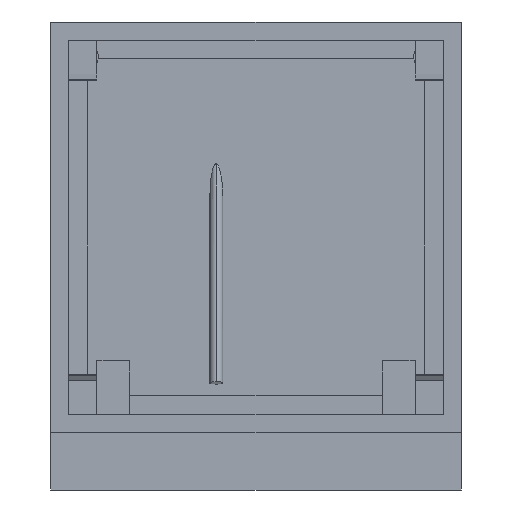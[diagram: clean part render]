
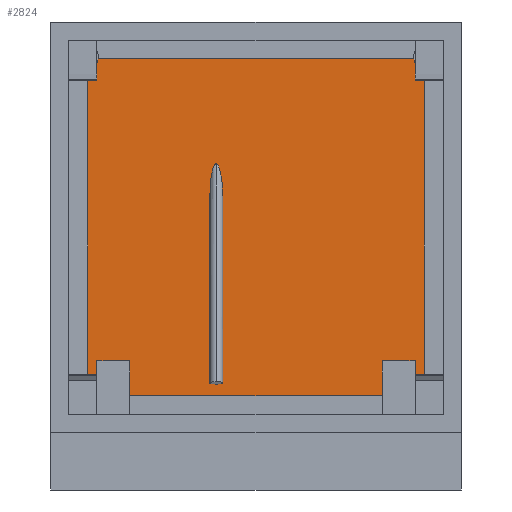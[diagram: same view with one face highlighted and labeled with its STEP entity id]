
A CAD part, front view. The second image highlights one B-rep face of the part: STEP entity #2824.
In plain terms, the highlighted planar face has unit normal (0, -1, 0).
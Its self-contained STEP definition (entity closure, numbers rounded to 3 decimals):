
#345=DIRECTION('',(0.,0.,-1.));
#346=VECTOR('',#345,75.);
#347=CARTESIAN_POINT('',(-270.,-106.,-285.));
#348=LINE('',#347,#346);
#407=CARTESIAN_POINT('',(-85.,-106.,135.724));
#408=CARTESIAN_POINT('',(-84.175,-106.,135.724));
#409=CARTESIAN_POINT('',(-82.463,-106.,134.942));
#410=CARTESIAN_POINT('',(-79.831,-106.,130.979));
#411=CARTESIAN_POINT('',(-77.294,-106.,124.022));
#412=CARTESIAN_POINT('',(-75.029,-106.,114.229));
#413=CARTESIAN_POINT('',(-73.5,-106.,104.161));
#414=CARTESIAN_POINT('',(-72.541,-106.,95.379));
#415=CARTESIAN_POINT('',(-71.96,-106.,88.548));
#416=CARTESIAN_POINT('',(-71.518,-106.,81.588));
#417=CARTESIAN_POINT('',(-71.263,-106.,75.774));
#418=CARTESIAN_POINT('',(-71.124,-106.,71.164));
#419=CARTESIAN_POINT('',(-71.052,-106.,67.738));
#420=CARTESIAN_POINT('',(-71.016,-106.,64.919));
#421=CARTESIAN_POINT('',(-71.002,-106.,62.689));
#422=CARTESIAN_POINT('',(-70.999,-106.,61.034));
#423=CARTESIAN_POINT('',(-71.002,-106.,59.379));
#424=CARTESIAN_POINT('',(-71.016,-106.,57.148));
#425=CARTESIAN_POINT('',(-71.052,-106.,54.33));
#426=CARTESIAN_POINT('',(-71.124,-106.,50.904));
#427=CARTESIAN_POINT('',(-71.263,-106.,46.294));
#428=CARTESIAN_POINT('',(-71.518,-106.,40.479));
#429=CARTESIAN_POINT('',(-71.96,-106.,33.519));
#430=CARTESIAN_POINT('',(-72.541,-106.,26.688));
#431=CARTESIAN_POINT('',(-73.5,-106.,17.907));
#432=CARTESIAN_POINT('',(-75.029,-106.,7.838));
#433=CARTESIAN_POINT('',(-77.294,-106.,-1.954));
#434=CARTESIAN_POINT('',(-79.831,-106.,-8.911));
#435=CARTESIAN_POINT('',(-82.463,-106.,-12.875));
#436=CARTESIAN_POINT('',(-84.175,-106.,-13.656));
#437=CARTESIAN_POINT('',(-85.,-106.,-13.656));
#439=CARTESIAN_POINT('',(-85.,-106.,-13.656));
#440=CARTESIAN_POINT('',(-85.825,-106.,-13.656));
#441=CARTESIAN_POINT('',(-87.537,-106.,-12.875));
#442=CARTESIAN_POINT('',(-90.169,-106.,-8.911));
#443=CARTESIAN_POINT('',(-92.706,-106.,-1.954));
#444=CARTESIAN_POINT('',(-94.971,-106.,7.838));
#445=CARTESIAN_POINT('',(-96.5,-106.,17.907));
#446=CARTESIAN_POINT('',(-97.459,-106.,26.688));
#447=CARTESIAN_POINT('',(-98.04,-106.,33.519));
#448=CARTESIAN_POINT('',(-98.482,-106.,40.479));
#449=CARTESIAN_POINT('',(-98.737,-106.,46.294));
#450=CARTESIAN_POINT('',(-98.876,-106.,50.904));
#451=CARTESIAN_POINT('',(-98.948,-106.,54.33));
#452=CARTESIAN_POINT('',(-98.984,-106.,57.148));
#453=CARTESIAN_POINT('',(-98.998,-106.,59.379));
#454=CARTESIAN_POINT('',(-99.001,-106.,61.034));
#455=CARTESIAN_POINT('',(-98.998,-106.,62.689));
#456=CARTESIAN_POINT('',(-98.984,-106.,64.919));
#457=CARTESIAN_POINT('',(-98.948,-106.,67.738));
#458=CARTESIAN_POINT('',(-98.876,-106.,71.164));
#459=CARTESIAN_POINT('',(-98.737,-106.,75.774));
#460=CARTESIAN_POINT('',(-98.482,-106.,81.588));
#461=CARTESIAN_POINT('',(-98.04,-106.,88.548));
#462=CARTESIAN_POINT('',(-97.459,-106.,95.379));
#463=CARTESIAN_POINT('',(-96.5,-106.,104.161));
#464=CARTESIAN_POINT('',(-94.971,-106.,114.229));
#465=CARTESIAN_POINT('',(-92.706,-106.,124.022));
#466=CARTESIAN_POINT('',(-90.169,-106.,130.979));
#467=CARTESIAN_POINT('',(-87.537,-106.,134.942));
#468=CARTESIAN_POINT('',(-85.825,-106.,135.724));
#469=CARTESIAN_POINT('',(-85.,-106.,135.724));
#471=CARTESIAN_POINT('',(-365.,-106.,-365.));
#472=DIRECTION('',(0.,-1.,0.));
#473=DIRECTION('',(0.893,0.,0.45));
#474=AXIS2_PLACEMENT_3D('',#471,#472,#473);
#476=DIRECTION('',(0.,0.,-1.));
#477=VECTOR('',#476,674.9);
#478=CARTESIAN_POINT('',(-360.,-106.,337.45));
#479=LINE('',#478,#477);
#480=CARTESIAN_POINT('',(-365.,-106.,365.));
#481=DIRECTION('',(0.,1.,0.));
#482=DIRECTION('',(0.984,0.,-0.179));
#483=AXIS2_PLACEMENT_3D('',#480,#481,#482);
#485=DIRECTION('',(-1.,0.,0.));
#486=VECTOR('',#485,674.9);
#487=CARTESIAN_POINT('',(337.45,-106.,360.));
#488=LINE('',#487,#486);
#489=CARTESIAN_POINT('',(365.,-106.,365.));
#490=DIRECTION('',(0.,1.,0.));
#491=DIRECTION('',(-0.179,0.,-0.984));
#492=AXIS2_PLACEMENT_3D('',#489,#490,#491);
#494=DIRECTION('',(0.,0.,1.));
#495=VECTOR('',#494,674.9);
#496=CARTESIAN_POINT('',(360.,-106.,-337.45));
#497=LINE('',#496,#495);
#498=CARTESIAN_POINT('',(365.,-106.,-365.));
#499=DIRECTION('',(0.,-1.,0.));
#500=DIRECTION('',(-0.179,0.,0.984));
#501=AXIS2_PLACEMENT_3D('',#498,#499,#500);
#503=DIRECTION('',(1.,0.,0.));
#504=VECTOR('',#503,540.);
#505=CARTESIAN_POINT('',(-270.,-106.,-360.));
#506=LINE('',#505,#504);
#1089=DIRECTION('',(0.,0.,-1.));
#1090=VECTOR('',#1089,67.39);
#1091=CARTESIAN_POINT('',(-340.,-106.,-285.));
#1092=LINE('',#1091,#1090);
#1129=DIRECTION('',(0.,0.,-1.));
#1130=VECTOR('',#1129,75.);
#1131=CARTESIAN_POINT('',(270.,-106.,-285.));
#1132=LINE('',#1131,#1130);
#1145=DIRECTION('',(1.,0.,0.));
#1146=VECTOR('',#1145,70.);
#1147=CARTESIAN_POINT('',(270.,-106.,-285.));
#1148=LINE('',#1147,#1146);
#1165=DIRECTION('',(0.,0.,-1.));
#1166=VECTOR('',#1165,67.39);
#1167=CARTESIAN_POINT('',(340.,-106.,-285.));
#1168=LINE('',#1167,#1166);
#1657=DIRECTION('',(-1.,0.,0.));
#1658=VECTOR('',#1657,70.);
#1659=CARTESIAN_POINT('',(-270.,-106.,-285.));
#1660=LINE('',#1659,#1658);
#1969=CARTESIAN_POINT('',(-337.45,-106.,360.));
#1970=CARTESIAN_POINT('',(-360.,-106.,337.45));
#1971=VERTEX_POINT('',#1969);
#1972=VERTEX_POINT('',#1970);
#2023=CARTESIAN_POINT('',(-85.,-106.,135.724));
#2024=VERTEX_POINT('',#2023);
#2025=CARTESIAN_POINT('',(-85.,-106.,-13.656));
#2026=VERTEX_POINT('',#2025);
#2041=CARTESIAN_POINT('',(337.45,-106.,360.));
#2042=VERTEX_POINT('',#2041);
#2055=CARTESIAN_POINT('',(-270.,-106.,-285.));
#2056=CARTESIAN_POINT('',(-340.,-106.,-285.));
#2057=VERTEX_POINT('',#2055);
#2058=VERTEX_POINT('',#2056);
#2059=CARTESIAN_POINT('',(270.,-106.,-285.));
#2060=CARTESIAN_POINT('',(340.,-106.,-285.));
#2061=VERTEX_POINT('',#2059);
#2062=VERTEX_POINT('',#2060);
#2075=CARTESIAN_POINT('',(-270.,-106.,-360.));
#2076=VERTEX_POINT('',#2075);
#2085=CARTESIAN_POINT('',(270.,-106.,-360.));
#2086=VERTEX_POINT('',#2085);
#2147=CARTESIAN_POINT('',(360.,-106.,337.45));
#2148=VERTEX_POINT('',#2147);
#2261=CARTESIAN_POINT('',(-340.,-106.,-352.39));
#2262=CARTESIAN_POINT('',(-360.,-106.,-337.45));
#2263=VERTEX_POINT('',#2261);
#2264=VERTEX_POINT('',#2262);
#2265=CARTESIAN_POINT('',(360.,-106.,-337.45));
#2266=CARTESIAN_POINT('',(340.,-106.,-352.39));
#2267=VERTEX_POINT('',#2265);
#2268=VERTEX_POINT('',#2266);
#2785=CARTESIAN_POINT('',(0.,-106.,0.));
#2786=DIRECTION('',(0.,-1.,0.));
#2787=DIRECTION('',(1.,0.,0.));
#2788=AXIS2_PLACEMENT_3D('',#2785,#2786,#2787);
#2789=PLANE('',#2788);
#2791=ORIENTED_EDGE('',*,*,#2790,.T.);
#2793=ORIENTED_EDGE('',*,*,#2792,.F.);
#2795=ORIENTED_EDGE('',*,*,#2794,.F.);
#2797=ORIENTED_EDGE('',*,*,#2796,.F.);
#2799=ORIENTED_EDGE('',*,*,#2798,.F.);
#2801=ORIENTED_EDGE('',*,*,#2800,.F.);
#2803=ORIENTED_EDGE('',*,*,#2802,.T.);
#2805=ORIENTED_EDGE('',*,*,#2804,.F.);
#2807=ORIENTED_EDGE('',*,*,#2806,.F.);
#2809=ORIENTED_EDGE('',*,*,#2808,.T.);
#2810=ORIENTED_EDGE('',*,*,#2777,.F.);
#2811=ORIENTED_EDGE('',*,*,#2680,.F.);
#2813=ORIENTED_EDGE('',*,*,#2812,.T.);
#2815=ORIENTED_EDGE('',*,*,#2814,.T.);
#2816=EDGE_LOOP('',(#2791,#2793,#2795,#2797,#2799,#2801,#2803,#2805,#2807,#2809,
#2810,#2811,#2813,#2815));
#2817=FACE_OUTER_BOUND('',#2816,.F.);
#2819=ORIENTED_EDGE('',*,*,#2818,.F.);
#2821=ORIENTED_EDGE('',*,*,#2820,.F.);
#2822=EDGE_LOOP('',(#2819,#2821));
#2823=FACE_BOUND('',#2822,.F.);
#438=B_SPLINE_CURVE_WITH_KNOTS('',3,(#407,#408,#409,#410,#411,#412,#413,#414,
#415,#416,#417,#418,#419,#420,#421,#422,#423,#424,#425,#426,#427,#428,#429,#430,
#431,#432,#433,#434,#435,#436,#437),.UNSPECIFIED.,.F.,.F.,(4,1,1,1,1,1,1,1,1,1,
1,1,1,1,1,1,1,1,1,1,1,1,1,1,1,1,1,1,4),(0.,0.063,0.125,0.188,0.25,
0.313,0.344,0.375,0.406,0.438,0.453,0.469,0.484,
0.492,0.5,0.508,0.516,0.531,0.547,0.563,
0.594,0.625,0.656,0.688,0.75,0.813,0.875,0.938,1.),
.UNSPECIFIED.);
#470=B_SPLINE_CURVE_WITH_KNOTS('',3,(#439,#440,#441,#442,#443,#444,#445,#446,
#447,#448,#449,#450,#451,#452,#453,#454,#455,#456,#457,#458,#459,#460,#461,#462,
#463,#464,#465,#466,#467,#468,#469),.UNSPECIFIED.,.F.,.F.,(4,1,1,1,1,1,1,1,1,1,
1,1,1,1,1,1,1,1,1,1,1,1,1,1,1,1,1,1,4),(0.,0.063,0.125,0.188,0.25,
0.313,0.344,0.375,0.406,0.438,0.453,0.469,0.484,
0.492,0.5,0.508,0.516,0.531,0.547,0.563,
0.594,0.625,0.656,0.688,0.75,0.813,0.875,0.938,1.),
.UNSPECIFIED.);
#475=CIRCLE('',#474,28.);
#484=CIRCLE('',#483,28.);
#493=CIRCLE('',#492,28.);
#502=CIRCLE('',#501,28.);
#2680=EDGE_CURVE('',#2057,#2076,#348,.T.);
#2777=EDGE_CURVE('',#2076,#2086,#506,.T.);
#2790=EDGE_CURVE('',#2263,#2264,#475,.T.);
#2792=EDGE_CURVE('',#1972,#2264,#479,.T.);
#2794=EDGE_CURVE('',#1971,#1972,#484,.T.);
#2796=EDGE_CURVE('',#2042,#1971,#488,.T.);
#2798=EDGE_CURVE('',#2148,#2042,#493,.T.);
#2800=EDGE_CURVE('',#2267,#2148,#497,.T.);
#2802=EDGE_CURVE('',#2267,#2268,#502,.T.);
#2804=EDGE_CURVE('',#2062,#2268,#1168,.T.);
#2806=EDGE_CURVE('',#2061,#2062,#1148,.T.);
#2808=EDGE_CURVE('',#2061,#2086,#1132,.T.);
#2812=EDGE_CURVE('',#2057,#2058,#1660,.T.);
#2814=EDGE_CURVE('',#2058,#2263,#1092,.T.);
#2818=EDGE_CURVE('',#2024,#2026,#438,.T.);
#2820=EDGE_CURVE('',#2026,#2024,#470,.T.);
#2824=ADVANCED_FACE('',(#2817,#2823),#2789,.T.);
